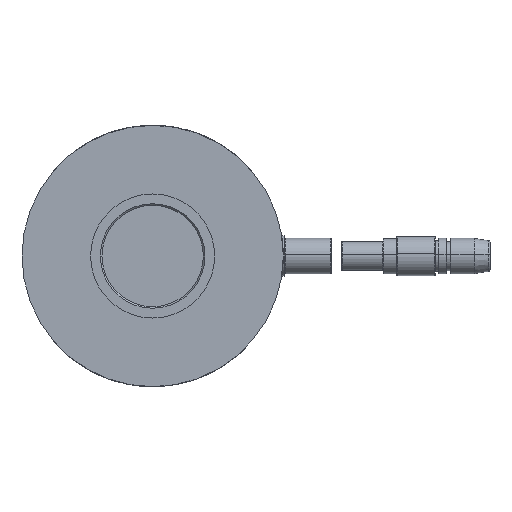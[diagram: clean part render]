
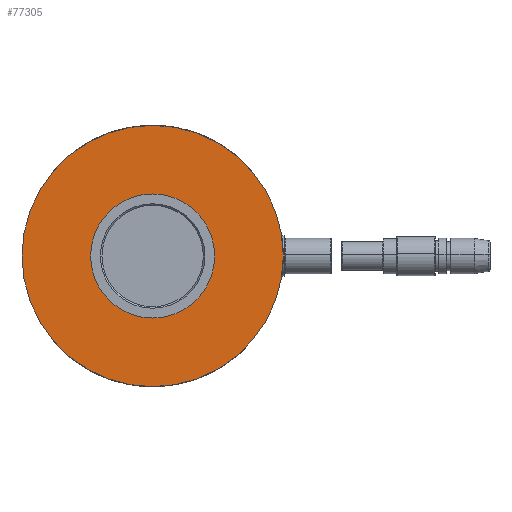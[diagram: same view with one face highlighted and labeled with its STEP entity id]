
A CAD part, front view. The second image highlights one B-rep face of the part: STEP entity #77305.
In plain terms, the highlighted planar face has unit normal (0, -1, 0).
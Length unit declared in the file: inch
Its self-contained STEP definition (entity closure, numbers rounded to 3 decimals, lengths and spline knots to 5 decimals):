
#1272 = AXIS2_PLACEMENT_3D ( 'NONE', #78897, #52513, #59448 ) ;
#1914 = EDGE_CURVE ( 'NONE', #30386, #79758, #62725, .T. ) ;
#2827 = EDGE_CURVE ( 'NONE', #30318, #57343, #44896, .T. ) ;
#3375 = FACE_BOUND ( 'NONE', #46366, .T. ) ;
#4627 = DIRECTION ( 'NONE',  ( 0., -1., 0. ) ) ;
#9608 = EDGE_CURVE ( 'NONE', #79758, #30386, #53077, .T. ) ;
#11298 = AXIS2_PLACEMENT_3D ( 'NONE', #45497, #4627, #18349 ) ;
#16220 = EDGE_CURVE ( 'NONE', #57343, #30318, #68562, .T. ) ;
#17526 = AXIS2_PLACEMENT_3D ( 'NONE', #26731, #68930, #61659 ) ;
#18349 = DIRECTION ( 'NONE',  ( 0., 0., 1. ) ) ;
#20395 = ORIENTED_EDGE ( 'NONE', *, *, #16220, .F. ) ;
#24305 = FACE_OUTER_BOUND ( 'NONE', #63234, .T. ) ;
#26533 = CARTESIAN_POINT ( 'NONE',  ( -0.71518, -0.5677, -1.25 ) ) ;
#26731 = CARTESIAN_POINT ( 'NONE',  ( -0.71518, -0.5677, 0. ) ) ;
#30318 = VERTEX_POINT ( 'NONE', #85661 ) ;
#30386 = VERTEX_POINT ( 'NONE', #67871 ) ;
#32641 = ORIENTED_EDGE ( 'NONE', *, *, #9608, .F. ) ;
#44112 = CARTESIAN_POINT ( 'NONE',  ( -0.71518, -0.5677, -0.594 ) ) ;
#44896 = CIRCLE ( 'NONE', #54321, 1.25 ) ;
#45497 = CARTESIAN_POINT ( 'NONE',  ( -0.71518, -0.5677, 0. ) ) ;
#46366 = EDGE_LOOP ( 'NONE', ( #56874, #32641 ) ) ;
#52206 = AXIS2_PLACEMENT_3D ( 'NONE', #62843, #82053, #69539 ) ;
#52513 = DIRECTION ( 'NONE',  ( 0., 1., 0. ) ) ;
#53077 = CIRCLE ( 'NONE', #17526, 0.594 ) ;
#54272 = DIRECTION ( 'NONE',  ( 0., 1., 0. ) ) ;
#54321 = AXIS2_PLACEMENT_3D ( 'NONE', #79842, #54272, #73988 ) ;
#56874 = ORIENTED_EDGE ( 'NONE', *, *, #1914, .F. ) ;
#57343 = VERTEX_POINT ( 'NONE', #26533 ) ;
#59448 = DIRECTION ( 'NONE',  ( 0., 0., 1. ) ) ;
#61659 = DIRECTION ( 'NONE',  ( 0., 0., 1. ) ) ;
#62725 = CIRCLE ( 'NONE', #11298, 0.594 ) ;
#62843 = CARTESIAN_POINT ( 'NONE',  ( -0.10718, -0.5677, 0. ) ) ;
#63234 = EDGE_LOOP ( 'NONE', ( #71290, #20395 ) ) ;
#67871 = CARTESIAN_POINT ( 'NONE',  ( -0.71518, -0.5677, 0.594 ) ) ;
#68562 = CIRCLE ( 'NONE', #1272, 1.25 ) ;
#68930 = DIRECTION ( 'NONE',  ( 0., -1., 0. ) ) ;
#69539 = DIRECTION ( 'NONE',  ( 0., 0., 1. ) ) ;
#71290 = ORIENTED_EDGE ( 'NONE', *, *, #2827, .F. ) ;
#73988 = DIRECTION ( 'NONE',  ( 0., 0., 1. ) ) ;
#77305 = ADVANCED_FACE ( 'NONE', ( #3375, #24305 ), #82926, .F. ) ;
#78897 = CARTESIAN_POINT ( 'NONE',  ( -0.71518, -0.5677, 0. ) ) ;
#79758 = VERTEX_POINT ( 'NONE', #44112 ) ;
#79842 = CARTESIAN_POINT ( 'NONE',  ( -0.71518, -0.5677, 0. ) ) ;
#82053 = DIRECTION ( 'NONE',  ( 0., 1., 0. ) ) ;
#82926 = PLANE ( 'NONE',  #52206 ) ;
#85661 = CARTESIAN_POINT ( 'NONE',  ( -0.71518, -0.5677, 1.25 ) ) ;
